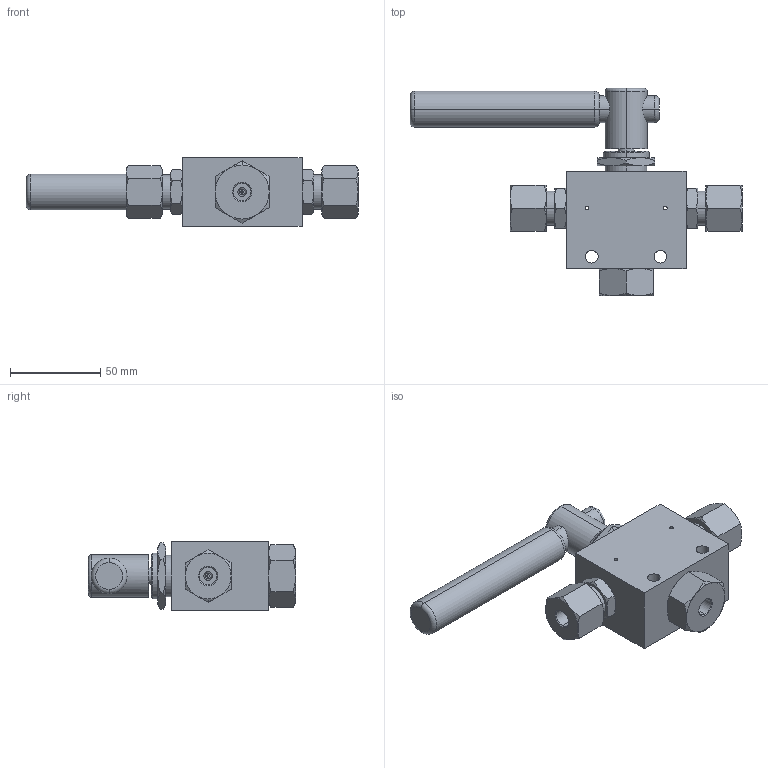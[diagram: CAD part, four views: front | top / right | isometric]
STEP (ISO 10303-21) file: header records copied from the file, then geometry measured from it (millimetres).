
FILE_DESCRIPTION (( 'STEP AP203' ), '1' );
FILE_NAME ('BV1503S02-3-180.STEP', '2022-04-07T09:55:02', ( '' ), ( '' ), 'SwSTEP 2.0', 'SolidWorks 2020', '' );
FILE_SCHEMA (( 'CONFIG_CONTROL_DESIGN' ));
Length unit declared in the file: millimetre
Products named in the file (1): BV1503S02-3-180
Bounding box: 184.33 x 115 x 38 mm (x, y, z)
Volume: 228690.9 mm3; surface area: 39521.7 mm2
Topology: 1 solids, 1 shells, 223 faces, 482 edges, 282 vertices
Faces by surface type: cone 102, plane 65, cylinder 48, torus 8
Entity records: 6741 total; most frequent: CARTESIAN_POINT 1972, DIRECTION 982, ORIENTED_EDGE 956, EDGE_CURVE 478, AXIS2_PLACEMENT_3D 428, VERTEX_POINT 282, EDGE_LOOP 256, FACE_OUTER_BOUND 223
